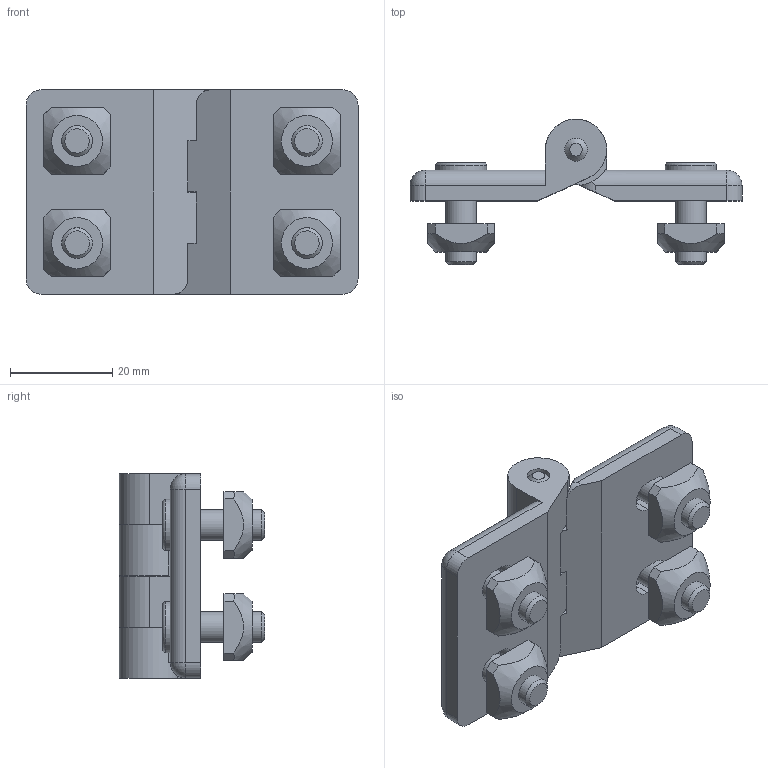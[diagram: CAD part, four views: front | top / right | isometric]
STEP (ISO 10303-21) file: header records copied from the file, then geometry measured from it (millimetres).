
FILE_DESCRIPTION((''),'2;1');
FILE_NAME('C:\Documents and Settings\Administrator\My Documents\Andys Backup Data\ANDY''S INVENTOR\INVENTOR LIBRARIES\MINITEC INVENTOR LIBRARIES\LINKS AND HINGES\A PACKED FILES\STEP FILES\21.1175 HINGE 45 M6.stp','2010-06-24T14:51:29',('Administrator'),(''),'Autodesk Inventor 2009','Autodesk Inventor 2009','');
FILE_SCHEMA(('AUTOMOTIVE_DESIGN { 1 0 10303 214 1 1 1 1 }'));
Length unit declared in the file: millimetre
Products named in the file (5): 21.1175 HINGE 45 M6; 21.1175 HINGE 45 M6 PIN; 21.1175 HINGE 45 M6 PLASTIC BLOCK; 21.1238  M6 x 16; 21.1330 M6 SQUARE NUT
Assembly tree (11 placements, depth 2):
  21.1175 HINGE 45 M6
    21.1175 HINGE 45 M6 PIN
    21.1175 HINGE 45 M6 PLASTIC BLOCK  x2
    21.1238  M6 x 16  x4
    21.1330 M6 SQUARE NUT  x4
Bounding box: 65 x 28.5 x 40 mm (x, y, z)
Volume: 21702.3 mm3; surface area: 14230.5 mm2
Topology: 11 solids, 11 shells, 197 faces, 479 edges, 308 vertices
Faces by surface type: plane 122, cylinder 53, cone 14, sphere 4, torus 4
Full cylindrical faces by diameter (mm): 4.5 x1, 4.501 x4, 6 x8, 10 x4
Entity records: 2344 total; most frequent: CARTESIAN_POINT 433, DIRECTION 385, ORIENTED_EDGE 332, EDGE_CURVE 166, AXIS2_PLACEMENT_3D 144, VERTEX_POINT 114, EDGE_LOOP 100, VECTOR 97
